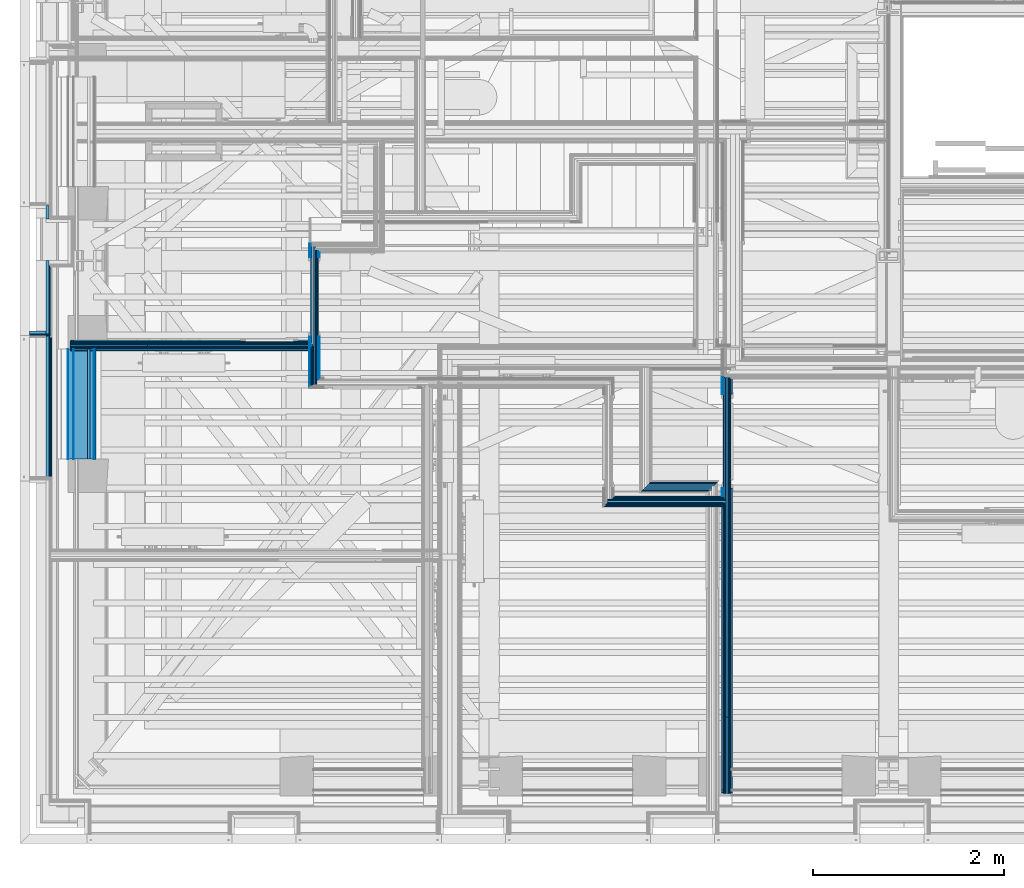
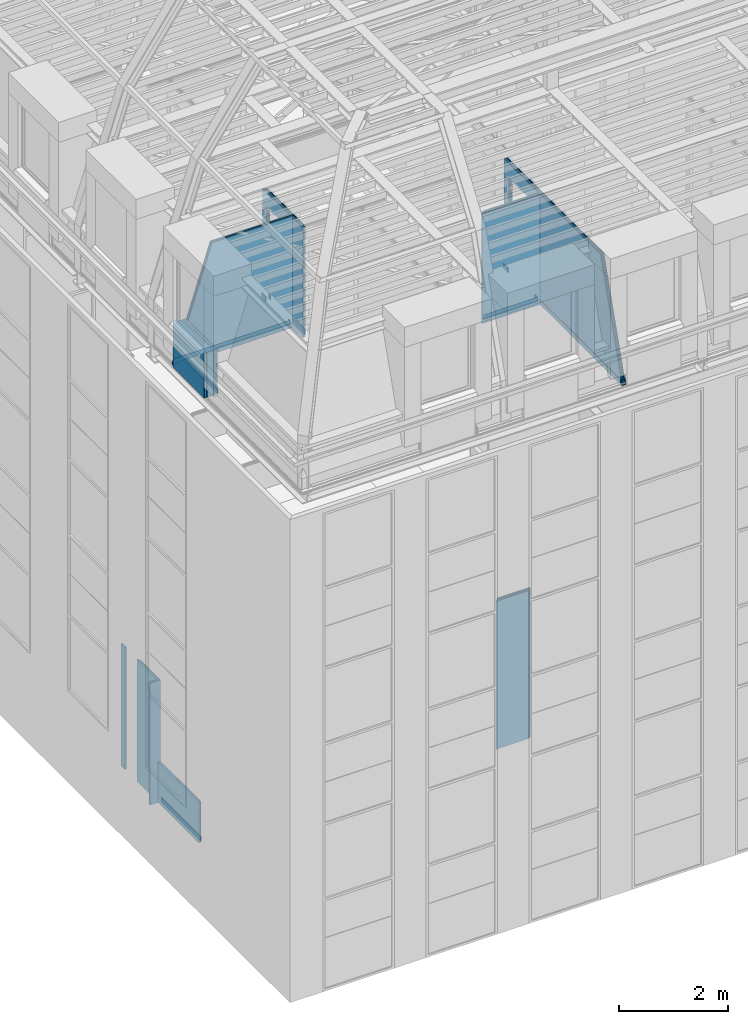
# One storey, part 29 of 183: 53 building element parts, 2 openings, 10 elements without a shape of their own.
"""IFC2X3 building model written with IfcOpenShell, lengths in metres."""

from ifc_helpers import new_model, entity, si_unit, converted_unit, derived_unit, money_unit, direction, frame, frame_2d, origin_with_axes, place, context, subcontext, project, spatial, polyline, rectangle, outline, extrude, clip, halfspace, material, type_object, element, aggregate, save


model = new_model("IFC2X3")

# Units and contexts
model_context = context("Model", 3, precision=1e-05, world=origin_with_axes(), true_north=direction((0.0, 1.0)))
body_context = subcontext(model_context, "Body", "Model", "MODEL_VIEW", scale=1.0)
ifc_project = project(units=[si_unit("LENGTHUNIT", "METRE"), si_unit("AREAUNIT", "SQUARE_METRE"), si_unit("VOLUMEUNIT", "CUBIC_METRE"), si_unit("ABSORBEDDOSEUNIT", "GRAY"), si_unit("AMOUNTOFSUBSTANCEUNIT", "MOLE"), si_unit("DOSEEQUIVALENTUNIT", "SIEVERT"), si_unit("ELECTRICCAPACITANCEUNIT", "FARAD"), si_unit("ELECTRICCHARGEUNIT", "COULOMB"), si_unit("ELECTRICCONDUCTANCEUNIT", "SIEMENS"), si_unit("ELECTRICCURRENTUNIT", "AMPERE"), si_unit("ELECTRICRESISTANCEUNIT", "OHM"), si_unit("ELECTRICVOLTAGEUNIT", "VOLT"), si_unit("ENERGYUNIT", "JOULE"), si_unit("FORCEUNIT", "NEWTON"), si_unit("FREQUENCYUNIT", "HERTZ"), si_unit("ILLUMINANCEUNIT", "LUX"), si_unit("INDUCTANCEUNIT", "HENRY"), si_unit("LUMINOUSFLUXUNIT", "LUMEN"), si_unit("LUMINOUSINTENSITYUNIT", "CANDELA"), si_unit("MAGNETICFLUXDENSITYUNIT", "TESLA"), si_unit("MAGNETICFLUXUNIT", "WEBER"), si_unit("MASSUNIT", "GRAM"), converted_unit("PLANEANGLEUNIT", "degree", entity("IfcReal", 0.0174532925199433), si_unit("PLANEANGLEUNIT", "RADIAN"), dimensions=[0, 0, 0, 0, 0, 0, 0]), si_unit("POWERUNIT", "WATT"), si_unit("PRESSUREUNIT", "PASCAL"), si_unit("RADIOACTIVITYUNIT", "BECQUEREL"), si_unit("SOLIDANGLEUNIT", "STERADIAN"), si_unit("THERMODYNAMICTEMPERATUREUNIT", "KELVIN"), si_unit("TIMEUNIT", "SECOND"), derived_unit("ACCELERATIONUNIT", [(si_unit("LENGTHUNIT", "METRE"), 1), (si_unit("TIMEUNIT", "SECOND"), -2)]), derived_unit("ANGULARVELOCITYUNIT", [(converted_unit("PLANEANGLEUNIT", "degree", entity("IfcReal", 0.0174532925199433), si_unit("PLANEANGLEUNIT", "RADIAN"), dimensions=[0, 0, 0, 0, 0, 0, 0]), 1), (si_unit("TIMEUNIT", "SECOND"), -1)]), derived_unit("CURVATUREUNIT", [(converted_unit("PLANEANGLEUNIT", "degree", entity("IfcReal", 0.0174532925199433), si_unit("PLANEANGLEUNIT", "RADIAN"), dimensions=[0, 0, 0, 0, 0, 0, 0]), 1), (si_unit("LENGTHUNIT", "METRE"), -1)]), derived_unit("DYNAMICVISCOSITYUNIT", [(si_unit("PRESSUREUNIT", "PASCAL"), 1), (si_unit("TIMEUNIT", "SECOND"), 1)]), derived_unit("HEATFLUXDENSITYUNIT", [(si_unit("POWERUNIT", "WATT"), 1), (si_unit("LENGTHUNIT", "METRE"), -2)]), derived_unit("HEATINGVALUEUNIT", [(si_unit("ENERGYUNIT", "JOULE"), 1), (si_unit("MASSUNIT", "GRAM"), -1)]), derived_unit("INTEGERCOUNTRATEUNIT", [(si_unit("TIMEUNIT", "SECOND"), -1)]), derived_unit("IONCONCENTRATIONUNIT", [(si_unit("MASSUNIT", "GRAM"), 1), (si_unit("VOLUMEUNIT", "CUBIC_METRE"), -1)]), derived_unit("ISOTHERMALMOISTURECAPACITYUNIT", [(si_unit("VOLUMEUNIT", "CUBIC_METRE"), 1), (si_unit("MASSUNIT", "GRAM"), -1)]), derived_unit("KINEMATICVISCOSITYUNIT", [(si_unit("AREAUNIT", "SQUARE_METRE"), 1), (si_unit("TIMEUNIT", "SECOND"), -1)]), derived_unit("LINEARFORCEUNIT", [(si_unit("FORCEUNIT", "NEWTON"), 1), (si_unit("LENGTHUNIT", "METRE"), -1)]), derived_unit("LINEARMOMENTUNIT", [(si_unit("FORCEUNIT", "NEWTON"), 1), (si_unit("LENGTHUNIT", "METRE"), -1)]), derived_unit("LINEARSTIFFNESSUNIT", [(si_unit("FORCEUNIT", "NEWTON"), 1), (si_unit("LENGTHUNIT", "METRE"), -1)]), derived_unit("LINEARVELOCITYUNIT", [(si_unit("LENGTHUNIT", "METRE"), 1), (si_unit("TIMEUNIT", "SECOND"), -1)]), derived_unit("LUMINOUSINTENSITYDISTRIBUTIONUNIT", [(si_unit("LUMINOUSINTENSITYUNIT", "CANDELA"), 1), (si_unit("LUMINOUSFLUXUNIT", "LUMEN"), -1)]), derived_unit("MASSDENSITYUNIT", [(si_unit("MASSUNIT", "GRAM"), 1), (si_unit("VOLUMEUNIT", "CUBIC_METRE"), -1)]), derived_unit("MASSFLOWRATEUNIT", [(si_unit("MASSUNIT", "GRAM"), 1), (si_unit("TIMEUNIT", "SECOND"), -1)]), derived_unit("MASSPERLENGTHUNIT", [(si_unit("MASSUNIT", "GRAM"), 1), (si_unit("LENGTHUNIT", "METRE"), -1)]), derived_unit("MODULUSOFELASTICITYUNIT", [(si_unit("FORCEUNIT", "NEWTON"), 1), (si_unit("AREAUNIT", "SQUARE_METRE"), -1)]), derived_unit("MODULUSOFLINEARSUBGRADEREACTIONUNIT", [(si_unit("FORCEUNIT", "NEWTON"), 1), (si_unit("LENGTHUNIT", "METRE"), -2)]), derived_unit("MODULUSOFROTATIONALSUBGRADEREACTIONUNIT", [(si_unit("FORCEUNIT", "NEWTON"), 1), (si_unit("LENGTHUNIT", "METRE"), 1)]), derived_unit("MODULUSOFSUBGRADEREACTIONUNIT", [(si_unit("FORCEUNIT", "NEWTON"), 1), (si_unit("VOLUMEUNIT", "CUBIC_METRE"), -1)]), derived_unit("MOISTUREDIFFUSIVITYUNIT", [(si_unit("VOLUMEUNIT", "CUBIC_METRE"), 1), (si_unit("TIMEUNIT", "SECOND"), -1)]), derived_unit("MOLECULARWEIGHTUNIT", [(si_unit("MASSUNIT", "GRAM"), 1), (si_unit("AMOUNTOFSUBSTANCEUNIT", "MOLE"), -1)]), derived_unit("PLANARFORCEUNIT", [(si_unit("FORCEUNIT", "NEWTON"), 1), (si_unit("LENGTHUNIT", "METRE"), -2)]), derived_unit("ROTATIONALFREQUENCYUNIT", [(si_unit("TIMEUNIT", "SECOND"), -1)]), derived_unit("ROTATIONALMASSUNIT", [(si_unit("MASSUNIT", "GRAM"), 1), (si_unit("LENGTHUNIT", "METRE"), 2)]), derived_unit("ROTATIONALSTIFFNESSUNIT", [(si_unit("FORCEUNIT", "NEWTON"), 1), (si_unit("LENGTHUNIT", "METRE"), 1), (converted_unit("PLANEANGLEUNIT", "degree", entity("IfcReal", 0.0174532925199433), si_unit("PLANEANGLEUNIT", "RADIAN"), dimensions=[0, 0, 0, 0, 0, 0, 0]), -1)]), derived_unit("SECTIONAREAINTEGRALUNIT", [(si_unit("LENGTHUNIT", "METRE"), 5)]), derived_unit("SECTIONMODULUSUNIT", [(si_unit("LENGTHUNIT", "METRE"), 3)]), derived_unit("SHEARMODULUSUNIT", [(si_unit("FORCEUNIT", "NEWTON"), 1), (si_unit("AREAUNIT", "SQUARE_METRE"), -1)]), derived_unit("SOUNDPOWERUNIT", [(si_unit("ENERGYUNIT", "JOULE"), 1), (si_unit("TIMEUNIT", "SECOND"), -1)]), derived_unit("SPECIFICHEATCAPACITYUNIT", [(si_unit("FORCEUNIT", "NEWTON"), 1), (si_unit("MASSUNIT", "GRAM"), -1), (si_unit("THERMODYNAMICTEMPERATUREUNIT", "KELVIN"), -1)]), derived_unit("TEMPERATUREGRADIENTUNIT", [(si_unit("THERMODYNAMICTEMPERATUREUNIT", "KELVIN"), 1), (si_unit("LENGTHUNIT", "METRE"), -1)]), derived_unit("THERMALADMITTANCEUNIT", [(si_unit("POWERUNIT", "WATT"), 1), (si_unit("AREAUNIT", "SQUARE_METRE"), -1), (si_unit("THERMODYNAMICTEMPERATUREUNIT", "KELVIN"), -1)]), derived_unit("THERMALCONDUCTANCEUNIT", [(si_unit("POWERUNIT", "WATT"), 1), (si_unit("LENGTHUNIT", "METRE"), -1), (si_unit("THERMODYNAMICTEMPERATUREUNIT", "KELVIN"), -1)]), derived_unit("THERMALEXPANSIONCOEFFICIENTUNIT", [(si_unit("THERMODYNAMICTEMPERATUREUNIT", "KELVIN"), -1)]), derived_unit("THERMALRESISTANCEUNIT", [(si_unit("AREAUNIT", "SQUARE_METRE"), 1), (si_unit("POWERUNIT", "WATT"), -1)]), derived_unit("THERMALTRANSMITTANCEUNIT", [(si_unit("POWERUNIT", "WATT"), 1), (si_unit("AREAUNIT", "SQUARE_METRE"), -1), (si_unit("THERMODYNAMICTEMPERATUREUNIT", "KELVIN"), -1)]), derived_unit("TORQUEUNIT", [(si_unit("FORCEUNIT", "NEWTON"), 1), (si_unit("LENGTHUNIT", "METRE"), 1)]), derived_unit("VAPORPERMEABILITYUNIT", [(si_unit("MASSUNIT", "GRAM"), 1), (si_unit("TIMEUNIT", "SECOND"), -1)]), derived_unit("VOLUMETRICFLOWRATEUNIT", [(si_unit("VOLUMEUNIT", "CUBIC_METRE"), 1), (si_unit("TIMEUNIT", "SECOND"), -1)]), derived_unit("WARPINGCONSTANTUNIT", [(si_unit("LENGTHUNIT", "METRE"), 6)]), derived_unit("WARPINGMOMENTUNIT", [(si_unit("FORCEUNIT", "NEWTON"), 1), (si_unit("LENGTHUNIT", "METRE"), 2)]), money_unit("GBP")], contexts=[model_context])

# Site, building, storey
site_placement = place(None, origin_with_axes())
site = spatial("IfcSite", under=ifc_project, at=site_placement, Name="Site", CompositionType="ELEMENT")
building_placement = place(site_placement, origin_with_axes())
building = spatial("IfcBuilding", under=site, at=building_placement, Name="Building01", CompositionType="ELEMENT")
storey_placement = place(building_placement, frame((0.0, 0.0, 5.15), z_axis=(0.0, 0.0, 1.0), x_axis=(1.0, 0.0, 0.0)))
storey = spatial("IfcBuildingStorey", under=building, at=storey_placement, Name="1F", CompositionType="ELEMENT", Elevation=5.15)

# Wall, building element parts
wall_type_1 = type_object("IfcWallType", Name="SHE_A-Walls_Type05a_Partition_95mm_tall", PredefinedType="NOTDEFINED")
wall_1_placement = place(storey_placement, frame((7.235, 3.72, 0.0), z_axis=(0.0, 0.0, 1.0), x_axis=(-1.0, 0.0, 0.0)))
wall_1 = element("IfcWall", 1, at=wall_1_placement, inside=storey, type_object=wall_type_1, Name="5A", ObjectType="SHE_A-Walls_Type05a_Partition_95mm_tall")
ifc_material_1 = material(Name="A_BSUK_WallInternal_Finishes_Plasterboard")
placement_1 = place(wall_1_placement, origin_with_axes())
building_element_part_1 = element("IfcBuildingElementPart", 2, at=placement_1, material=ifc_material_1, Name="2", context=body_context, shape_type="SweptSolid", body=[
    extrude(outline(polyline([(0.652, -0.048), (-0.048, -0.048), (-0.06, -0.06), (0.64, -0.06), (0.652, -0.048)])), origin_with_axes(), (0.0, 0.0, 1.0), 3.32),
])
ifc_material_2 = material(Name="Air Cavity")
building_element_part_2 = element("IfcBuildingElementPart", 3, at=placement_1, material=ifc_material_2, Name="3", context=body_context, shape_type="SweptSolid", body=[
    extrude(outline(polyline([(0.675, -0.025), (-0.025, -0.025), (-0.048, -0.048), (0.652, -0.048), (0.675, -0.025)])), origin_with_axes(), (0.0, 0.0, 1.0), 3.32),
])
ifc_material_3 = material(Name="A_BSUK_Insulation")
building_element_part_3 = element("IfcBuildingElementPart", 4, at=placement_1, material=ifc_material_3, Name="4", context=body_context, shape_type="SweptSolid", body=[
    extrude(outline(polyline([(0.7, 0.0), (0.0, 0.0), (0.0, -0.025), (0.675, -0.025), (0.7, 0.0)])), origin_with_axes(), (0.0, 0.0, 1.0), 3.32),
])
building_element_part_4 = element("IfcBuildingElementPart", 5, at=placement_1, material=ifc_material_2, Name="5", context=body_context, shape_type="SweptSolid", body=[
    extrude(outline(polyline([(0.723, 0.023), (0.0, 0.023), (0.0, 0.0), (0.7, 0.0), (0.723, 0.023)])), origin_with_axes(), (0.0, 0.0, 1.0), 3.32),
])
building_element_part_5 = element("IfcBuildingElementPart", 6, at=placement_1, material=ifc_material_1, Name="6", context=body_context, shape_type="SweptSolid", body=[
    extrude(outline(polyline([(0.735, 0.035), (0.035, 0.035), (0.023, 0.023), (0.723, 0.023), (0.735, 0.035)])), origin_with_axes(), (0.0, 0.0, 1.0), 3.32),
])
aggregate(wall_1, [building_element_part_1, building_element_part_2, building_element_part_3, building_element_part_4, building_element_part_5])

# Wall, building element part
wall_type_2 = type_object("IfcWallType", Name="SHE_A-Walls_Type06d_ExternalWallInsulation_48mm", PredefinedType="NOTDEFINED")
wall_2_placement = place(storey_placement, frame((0.27, 6.68018, 0.0), z_axis=(0.0, 0.0, 1.0), x_axis=(0.0, -1.0, 0.0)))
wall_2 = element("IfcWall", 7, at=wall_2_placement, inside=storey, type_object=wall_type_2, Name="6D", ObjectType="SHE_A-Walls_Type06d_ExternalWallInsulation_48mm")
building_element_part_6_placement = place(wall_2_placement, origin_with_axes())
building_element_part_6 = element("IfcBuildingElementPart", 8, at=building_element_part_6_placement, material=ifc_material_3, Name="1", context=body_context, shape_type="SweptSolid", body=[
    extrude(rectangle(XDim=0.14418, YDim=0.036, at=frame_2d((0.07209, 0.018), x_axis=(-1.0, 0.0))), origin_with_axes(), (0.0, 0.0, 1.0), 2.74),
])
aggregate(wall_2, [building_element_part_6])

# Wall, building element parts
wall_3_placement = place(storey_placement, frame((0.27, 6.1, 0.0), z_axis=(0.0, 0.0, 1.0), x_axis=(0.0, -1.0, 0.0)))
wall_3 = element("IfcWall", 9, at=wall_3_placement, inside=storey, type_object=wall_type_2, Name="6D", ObjectType="SHE_A-Walls_Type06d_ExternalWallInsulation_48mm")
placement_2 = place(wall_3_placement, origin_with_axes())
building_element_part_7 = element("IfcBuildingElementPart", 10, at=placement_2, material=ifc_material_3, Name="1", context=body_context, shape_type="SweptSolid", body=[
    extrude(rectangle(XDim=0.773, YDim=0.036, at=frame_2d((0.3865, 0.018), x_axis=(-1.0, 0.0))), origin_with_axes(), (0.0, 0.0, 1.0), 2.74),
])
building_element_part_8 = element("IfcBuildingElementPart", 11, at=placement_2, material=ifc_material_1, Name="2", context=body_context, shape_type="SweptSolid", body=[
    extrude(outline(polyline([(0.785, 0.048), (0.048, 0.048), (0.048, 0.035), (0.772, 0.035), (0.785, 0.048)])), origin_with_axes(), (0.0, 0.0, 1.0), 2.74),
])
aggregate(wall_3, [building_element_part_7, building_element_part_8])

wall_4_placement = place(storey_placement, frame((0.27, 5.363, 0.0), z_axis=(0.0, 0.0, 1.0), x_axis=(-1.0, 0.0, 0.0)))
wall_4 = element("IfcWall", 12, at=wall_4_placement, inside=storey, type_object=wall_type_2, Name="6D", ObjectType="SHE_A-Walls_Type06d_ExternalWallInsulation_48mm")
placement_3 = place(wall_4_placement, origin_with_axes())
building_element_part_9 = element("IfcBuildingElementPart", 13, at=placement_3, material=ifc_material_3, Name="1", context=body_context, shape_type="SweptSolid", body=[
    extrude(rectangle(XDim=0.036, YDim=0.17, at=frame_2d((0.085, 0.018), x_axis=(0.0, -1.0))), origin_with_axes(), (0.0, 0.0, 1.0), 2.74),
])
building_element_part_10 = element("IfcBuildingElementPart", 14, at=placement_3, material=ifc_material_1, Name="2", context=body_context, shape_type="SweptSolid", body=[
    extrude(outline(polyline([(-0.048, 0.048), (-0.035, 0.035), (0.17, 0.035), (0.17, 0.048), (-0.048, 0.048)])), origin_with_axes(), (0.0, 0.0, 1.0), 2.74),
])
aggregate(wall_4, [building_element_part_9, building_element_part_10])

wall_5_placement = place(storey_placement, frame((0.306, 5.315, 0.0), z_axis=(0.0, 0.0, 1.0), x_axis=(0.0, -1.0, 0.0)))
wall_5 = element("IfcWall", 15, at=wall_5_placement, inside=storey, type_object=wall_type_2, Name="6D", ObjectType="SHE_A-Walls_Type06d_ExternalWallInsulation_48mm")
placement_4 = place(wall_5_placement, origin_with_axes())
building_element_part_11 = element("IfcBuildingElementPart", 16, at=placement_4, material=ifc_material_3, Name="1", context=body_context, shape_type="SweptSolid", body=[
    extrude(rectangle(XDim=1.49282, YDim=0.036, at=frame_2d((0.74641, -0.018), x_axis=(-1.0, 0.0))), origin_with_axes(), (0.0, 0.0, 1.0), 0.915),
])
building_element_part_12 = element("IfcBuildingElementPart", 17, at=placement_4, material=ifc_material_1, Name="2", context=body_context, shape_type="SweptSolid", body=[
    extrude(rectangle(XDim=1.49282, YDim=0.013, at=frame_2d((0.74641, 0.0055), x_axis=(-1.0, 0.0))), origin_with_axes(), (0.0, 0.0, 1.0), 0.915),
])
ifc_material_4 = material(Name="A_BSUK_Walls_Timber")
building_element_part_13 = element("IfcBuildingElementPart", 18, at=placement_4, material=ifc_material_4, Name="3", context=body_context, shape_type="SweptSolid", body=[
    extrude(rectangle(XDim=1.46282, YDim=0.015, at=frame_2d((0.74641, 0.0195), x_axis=(-1.0, 0.0))), frame((0.0, 0.0, 0.015), z_axis=(0.0, 0.0, 1.0), x_axis=(1.0, 0.0, 0.0)), (0.0, 0.0, 1.0), 0.1),
])
aggregate(wall_5, [building_element_part_11, building_element_part_12, building_element_part_13])

# Wall, opening, building element parts
wall_type_3 = type_object("IfcWallType", Name="SHE_A-Walls_Type05b_Partition_80mm", PredefinedType="NOTDEFINED")
wall_6_placement = place(storey_placement, frame((3.066976, 6.252939, 9.78), z_axis=(0.0, 0.0, 1.0), x_axis=(0.0, -1.0, 0.0)))
wall_6 = element("IfcWall", 19, at=wall_6_placement, inside=storey, type_object=wall_type_3, Name="5B", ObjectType="SHE_A-Walls_Type05b_Partition_80mm")
opening_1_placement = place(wall_6_placement, frame((0.115964, 0.068, 0.0), z_axis=(0.0, 0.0, 1.0), x_axis=(1.0, 0.0, 0.0)))
element("IfcOpeningElement", 20, at=opening_1_placement, cuts=wall_6, Name="Opening", ObjectType="Opening", context=body_context, shape_type="SweptSolid", body=[
    extrude(rectangle(XDim=0.834, YDim=2.142, at=frame_2d((0.417, 1.071), x_axis=(-1.0, 0.0))), frame((0.0, 0.0, 0.0), z_axis=(0.0, -1.0, 0.0), x_axis=(1.0, 0.0, 0.0)), (0.0, 0.0, 1.0), 0.11),
])
placement_5 = place(wall_6_placement, origin_with_axes())
building_element_part_14 = element("IfcBuildingElementPart", 21, at=placement_5, material=ifc_material_4, Name="1", context=body_context, shape_type="SweptSolid", body=[
    extrude(rectangle(XDim=1.024964, YDim=0.015, at=frame_2d((0.485482, -0.0345), x_axis=(-1.0, 0.0))), frame((0.0, 0.0, 0.015), z_axis=(0.0, 0.0, 1.0), x_axis=(1.0, 0.0, 0.0)), (0.0, 0.0, 1.0), 0.1),
])
building_element_part_15 = element("IfcBuildingElementPart", 22, at=placement_5, material=ifc_material_4, Name="2", context=body_context, shape_type="SweptSolid", body=[
    extrude(outline(polyline([(1.473, -0.027), (-0.027, -0.027), (-0.027, -0.042), (1.488, -0.042), (1.473, -0.027)])), frame((0.0, 0.0, 0.015), z_axis=(0.0, 0.0, 1.0), x_axis=(1.0, 0.0, 0.0)), (0.0, 0.0, 1.0), 0.1),
])
building_element_part_16 = element("IfcBuildingElementPart", 23, at=placement_5, material=ifc_material_1, Name="3", context=body_context, shape_type="SweptSolid", body=[
    extrude(rectangle(XDim=1.039964, YDim=0.015, at=frame_2d((0.492982, -0.0195), x_axis=(-1.0, 0.0))), origin_with_axes(), (0.0, 0.0, 1.0), 2.468),
])
building_element_part_17 = element("IfcBuildingElementPart", 24, at=placement_5, material=ifc_material_1, Name="4", context=body_context, shape_type="SweptSolid", body=[
    extrude(outline(polyline([(1.458, -0.012), (1.062964, -0.012), (1.062964, -0.027), (1.473, -0.027), (1.458, -0.012)])), origin_with_axes(), (0.0, 0.0, 1.0), 2.468),
])
building_element_part_18 = element("IfcBuildingElementPart", 25, at=placement_5, material=ifc_material_2, Name="5", context=body_context, shape_type="SweptSolid", body=[
    extrude(outline(polyline([(1.446, 0.0), (1.062964, 0.0), (1.062964, -0.012), (1.458, -0.012), (1.446, 0.0)])), origin_with_axes(), (0.0, 0.0, 1.0), 2.468),
])
building_element_part_19 = element("IfcBuildingElementPart", 26, at=placement_5, material=ifc_material_3, Name="6", context=body_context, shape_type="SweptSolid", body=[
    extrude(rectangle(XDim=1.446, YDim=0.025, at=frame_2d((0.723, 0.0125), x_axis=(-1.0, 0.0))), origin_with_axes(), (0.0, 0.0, 1.0), 2.468),
])
building_element_part_20 = element("IfcBuildingElementPart", 27, at=placement_5, material=ifc_material_2, Name="7", context=body_context, shape_type="SweptSolid", body=[
    extrude(rectangle(XDim=1.446, YDim=0.013, at=frame_2d((0.723, 0.0315), x_axis=(-1.0, 0.0))), origin_with_axes(), (0.0, 0.0, 1.0), 2.468),
])
building_element_part_21 = element("IfcBuildingElementPart", 28, at=placement_5, material=ifc_material_1, Name="8", context=body_context, shape_type="SweptSolid", body=[
    extrude(outline(polyline([(1.393, 0.053), (0.038, 0.053), (0.038, 0.038), (1.408, 0.038), (1.393, 0.053)])), origin_with_axes(), (0.0, 0.0, 1.0), 2.468),
])
building_element_part_22 = element("IfcBuildingElementPart", 29, at=placement_5, material=ifc_material_4, Name="9", context=body_context, shape_type="SweptSolid", body=[
    extrude(outline(polyline([(1.378, 0.068), (0.068, 0.068), (0.053, 0.053), (1.393, 0.053), (1.378, 0.068)])), frame((0.0, 0.0, 0.015), z_axis=(0.0, 0.0, 1.0), x_axis=(1.0, 0.0, 0.0)), (0.0, 0.0, 1.0), 0.1),
])
aggregate(wall_6, [building_element_part_14, building_element_part_15, building_element_part_16, building_element_part_17, building_element_part_18, building_element_part_19, building_element_part_20, building_element_part_21, building_element_part_22])

# Wall, building element parts
wall_type_4 = type_object("IfcWallType", Name="SHE_A-Walls_Type06e_ExternalWallPenthouse_280mm", PredefinedType="NOTDEFINED")
wall_7_placement = place(storey_placement, frame((0.564939, 5.174915, 9.78), z_axis=(0.0, 0.0, 1.0), x_axis=(0.0, 1.0, 0.0)))
wall_7 = element("IfcWall", 30, at=wall_7_placement, inside=storey, type_object=wall_type_4, Name="6E", ObjectType="SHE_A-Walls_Type06e_ExternalWallPenthouse_280mm")
placement_6 = place(wall_7_placement, origin_with_axes())
building_element_part_23 = element("IfcBuildingElementPart", 31, at=placement_6, material=ifc_material_4, Name="1", context=body_context, shape_type="SweptSolid", body=[
    extrude(rectangle(XDim=1.149951, YDim=0.015, at=frame_2d((-0.574976, -0.2225), x_axis=(1.0, 0.0))), frame((0.0, 0.0, 0.015), z_axis=(0.0, 0.0, 1.0), x_axis=(1.0, 0.0, 0.0)), (0.0, 0.0, 1.0), 0.1),
])
building_element_part_24 = element("IfcBuildingElementPart", 32, at=placement_6, material=ifc_material_1, Name="2", context=body_context, shape_type="SweptSolid", body=[
    extrude(rectangle(XDim=1.149951, YDim=0.01, at=frame_2d((-0.574976, -0.21), x_axis=(1.0, 0.0))), origin_with_axes(), (0.0, 0.0, 1.0), 1.0),
])
building_element_part_25 = element("IfcBuildingElementPart", 33, at=placement_6, material=ifc_material_3, Name="3", context=body_context, shape_type="SweptSolid", body=[
    extrude(rectangle(XDim=1.149951, YDim=0.04, at=frame_2d((-0.574976, -0.185), x_axis=(1.0, 0.0))), origin_with_axes(), (0.0, 0.0, 1.0), 1.0),
])
building_element_part_26 = element("IfcBuildingElementPart", 34, at=placement_6, material=ifc_material_2, Name="4", context=body_context, shape_type="SweptSolid", body=[
    extrude(rectangle(XDim=1.149951, YDim=0.025, at=frame_2d((-0.574976, -0.1525), x_axis=(1.0, 0.0))), origin_with_axes(), (0.0, 0.0, 1.0), 1.0),
])
building_element_part_27 = element("IfcBuildingElementPart", 35, at=placement_6, material=ifc_material_3, Name="5", context=body_context, shape_type="SweptSolid", body=[
    extrude(rectangle(XDim=1.149951, YDim=0.14, at=frame_2d((-0.574976, -0.07), x_axis=(1.0, 0.0))), origin_with_axes(), (0.0, 0.0, 1.0), 1.0),
])
building_element_part_28 = element("IfcBuildingElementPart", 36, at=placement_6, material=ifc_material_4, Name="6", context=body_context, shape_type="SweptSolid", body=[
    extrude(rectangle(XDim=1.149951, YDim=0.01, at=frame_2d((-0.574976, 0.005), x_axis=(1.0, 0.0))), origin_with_axes(), (0.0, 0.0, 1.0), 1.0),
])
building_element_part_29 = element("IfcBuildingElementPart", 37, at=placement_6, material=ifc_material_2, Name="7", context=body_context, shape_type="SweptSolid", body=[
    extrude(rectangle(XDim=1.149951, YDim=0.05, at=frame_2d((-0.574976, 0.035), x_axis=(1.0, 0.0))), origin_with_axes(), (0.0, 0.0, 1.0), 1.0),
])
ifc_material_5 = material(Name="A_BSUK_WallInternal_Finishes_Metal")
building_element_part_30 = element("IfcBuildingElementPart", 38, at=placement_6, material=ifc_material_5, Name="8", context=body_context, shape_type="SweptSolid", body=[
    extrude(rectangle(XDim=1.149951, YDim=0.005, at=frame_2d((-0.574976, 0.0625), x_axis=(1.0, 0.0))), origin_with_axes(), (0.0, 0.0, 1.0), 1.0),
])
aggregate(wall_7, [building_element_part_23, building_element_part_24, building_element_part_25, building_element_part_26, building_element_part_27, building_element_part_28, building_element_part_29, building_element_part_30])

# Wall, opening, building element parts
wall_8_placement = place(storey_placement, frame((7.387, 4.88, 9.78), z_axis=(0.0, 0.0, 1.0), x_axis=(0.0, -1.0, 0.0)))
wall_8 = element("IfcWall", 39, at=wall_8_placement, inside=storey, type_object=wall_type_3, Name="5B", ObjectType="SHE_A-Walls_Type05b_Partition_80mm")
opening_2_placement = place(wall_8_placement, frame((0.178061, -0.042, 0.0), z_axis=(0.0, 0.0, 1.0), x_axis=(1.0, 0.0, 0.0)))
element("IfcOpeningElement", 40, at=opening_2_placement, cuts=wall_8, Name="Opening", ObjectType="Opening", context=body_context, shape_type="SweptSolid", body=[
    extrude(rectangle(XDim=0.984, YDim=2.142, at=frame_2d((-0.492, 1.071), x_axis=(-1.0, 0.0))), frame((0.0, 0.0, 0.0), z_axis=(0.0, 1.0, 0.0), x_axis=(-1.0, 0.0, 0.0)), (0.0, 0.0, 1.0), 0.11),
])
placement_7 = place(wall_8_placement, origin_with_axes())
building_element_part_31 = element("IfcBuildingElementPart", 41, at=placement_7, material=ifc_material_4, Name="1", context=body_context, shape_type="SweptSolid", body=[
    extrude(rectangle(XDim=1.245061, YDim=0.015, at=frame_2d((0.62253, -0.0345), x_axis=(-1.0, 0.0))), frame((0.0, 0.0, 0.015), z_axis=(0.0, 0.0, 1.0), x_axis=(1.0, 0.0, 0.0)), (0.0, 0.0, 1.0), 0.1),
])
building_element_part_32 = element("IfcBuildingElementPart", 42, at=placement_7, material=ifc_material_4, Name="2", context=body_context, shape_type="Clipping", body=[
    clip(extrude(rectangle(XDim=4.35127, YDim=0.015, at=frame_2d((2.175635, -0.0345), x_axis=(-1.0, 0.0))), frame((0.0, 0.0, 0.015), z_axis=(0.0, 0.0, 1.0), x_axis=(1.0, 0.0, 0.0)), (0.0, 0.0, 1.0), 0.1), halfspace(frame((3.940169, 0.0, 1.280238), z_axis=(-0.95105652, 0.0, -0.30901699), x_axis=(0.0, -1.0, 0.0)), True)),
])
building_element_part_33 = element("IfcBuildingElementPart", 43, at=placement_7, material=ifc_material_1, Name="3", context=body_context, shape_type="SweptSolid", body=[
    extrude(rectangle(XDim=1.275061, YDim=0.015, at=frame_2d((0.63753, -0.0195), x_axis=(-1.0, 0.0))), origin_with_axes(), (0.0, 0.0, 1.0), 2.468),
])
building_element_part_34 = element("IfcBuildingElementPart", 44, at=placement_7, material=ifc_material_1, Name="4", context=body_context, shape_type="Clipping", body=[
    clip(extrude(rectangle(XDim=4.356143, YDim=0.015, at=frame_2d((2.178072, -0.0195), x_axis=(-1.0, 0.0))), origin_with_axes(), (0.0, 0.0, 1.0), 2.468), halfspace(frame((3.940169, 0.0, 1.280238), z_axis=(-0.95105652, 0.0, -0.30901699), x_axis=(0.0, -1.0, 0.0)), True)),
])
building_element_part_35 = element("IfcBuildingElementPart", 45, at=placement_7, material=ifc_material_2, Name="5", context=body_context, shape_type="Clipping", body=[
    clip(extrude(rectangle(XDim=4.356143, YDim=0.012, at=frame_2d((2.178072, -0.006), x_axis=(-1.0, 0.0))), origin_with_axes(), (0.0, 0.0, 1.0), 2.468), halfspace(frame((3.940169, 0.0, 1.280238), z_axis=(-0.95105652, 0.0, -0.30901699), x_axis=(0.0, -1.0, 0.0)), True)),
])
building_element_part_36 = element("IfcBuildingElementPart", 46, at=placement_7, material=ifc_material_3, Name="6", context=body_context, shape_type="Clipping", body=[
    clip(extrude(rectangle(XDim=4.356143, YDim=0.025, at=frame_2d((2.178072, 0.0125), x_axis=(-1.0, 0.0))), origin_with_axes(), (0.0, 0.0, 1.0), 2.468), halfspace(frame((3.940169, 0.0, 1.280238), z_axis=(-0.95105652, 0.0, -0.30901699), x_axis=(0.0, -1.0, 0.0)), True)),
])
building_element_part_37 = element("IfcBuildingElementPart", 47, at=placement_7, material=ifc_material_2, Name="7", context=body_context, shape_type="Clipping", body=[
    clip(extrude(rectangle(XDim=4.356143, YDim=0.013, at=frame_2d((2.178072, 0.0315), x_axis=(-1.0, 0.0))), origin_with_axes(), (0.0, 0.0, 1.0), 2.468), halfspace(frame((3.940169, 0.0, 1.280238), z_axis=(-0.95105652, 0.0, -0.30901699), x_axis=(0.0, -1.0, 0.0)), True)),
])
building_element_part_38 = element("IfcBuildingElementPart", 48, at=placement_7, material=ifc_material_1, Name="8", context=body_context, shape_type="Clipping", body=[
    clip(extrude(rectangle(XDim=4.356143, YDim=0.015, at=frame_2d((2.178072, 0.0455), x_axis=(-1.0, 0.0))), origin_with_axes(), (0.0, 0.0, 1.0), 2.468), halfspace(frame((3.940169, 0.0, 1.280238), z_axis=(-0.95105652, 0.0, -0.30901699), x_axis=(0.0, -1.0, 0.0)), True)),
])
building_element_part_39 = element("IfcBuildingElementPart", 49, at=placement_7, material=ifc_material_4, Name="9", context=body_context, shape_type="Clipping", body=[
    clip(extrude(rectangle(XDim=4.33627, YDim=0.015, at=frame_2d((2.183135, 0.0605), x_axis=(-1.0, 0.0))), frame((0.0, 0.0, 0.015), z_axis=(0.0, 0.0, 1.0), x_axis=(1.0, 0.0, 0.0)), (0.0, 0.0, 1.0), 0.1), halfspace(frame((3.940169, 0.0, 1.280238), z_axis=(-0.95105652, 0.0, -0.30901699), x_axis=(0.0, -1.0, 0.0)), True)),
])
aggregate(wall_8, [building_element_part_31, building_element_part_32, building_element_part_33, building_element_part_34, building_element_part_35, building_element_part_36, building_element_part_37, building_element_part_38, building_element_part_39])

# Wall, building element parts
wall_9_placement = place(storey_placement, frame((3.066976, 5.227976, 9.78), z_axis=(0.0, 0.0, 1.0), x_axis=(-1.0, 0.0, 0.0)))
wall_9 = element("IfcWall", 50, at=wall_9_placement, inside=storey, type_object=wall_type_3, Name="5B", ObjectType="SHE_A-Walls_Type05b_Partition_80mm")
placement_8 = place(wall_9_placement, origin_with_axes())
building_element_part_40 = element("IfcBuildingElementPart", 51, at=placement_8, material=ifc_material_4, Name="1", context=body_context, shape_type="Clipping", body=[
    clip(extrude(rectangle(XDim=2.496245, YDim=0.015, at=frame_2d((1.290123, -0.0345), x_axis=(-1.0, 0.0))), frame((0.0, 0.0, 0.015), z_axis=(0.0, 0.0, 1.0), x_axis=(1.0, 0.0, 0.0)), (0.0, 0.0, 1.0), 0.1), halfspace(frame((2.300273, 0.0, 0.747404), z_axis=(-0.95105652, 0.0, -0.30901699), x_axis=(0.0, -1.0, 0.0)), True)),
])
building_element_part_41 = element("IfcBuildingElementPart", 52, at=placement_8, material=ifc_material_1, Name="2", context=body_context, shape_type="Clipping", body=[
    clip(extrude(rectangle(XDim=2.516119, YDim=0.015, at=frame_2d((1.285059, -0.0195), x_axis=(-1.0, 0.0))), origin_with_axes(), (0.0, 0.0, 1.0), 2.5), halfspace(frame((2.300273, 0.0, 0.747404), z_axis=(-0.95105652, 0.0, -0.30901699), x_axis=(0.0, -1.0, 0.0)), True)),
])
building_element_part_42 = element("IfcBuildingElementPart", 53, at=placement_8, material=ifc_material_2, Name="3", context=body_context, shape_type="Clipping", body=[
    clip(extrude(rectangle(XDim=2.516119, YDim=0.012, at=frame_2d((1.285059, -0.006), x_axis=(-1.0, 0.0))), origin_with_axes(), (0.0, 0.0, 1.0), 2.5), halfspace(frame((2.300273, 0.0, 0.747404), z_axis=(-0.95105652, 0.0, -0.30901699), x_axis=(0.0, -1.0, 0.0)), True)),
])
building_element_part_43 = element("IfcBuildingElementPart", 54, at=placement_8, material=ifc_material_3, Name="4", context=body_context, shape_type="Clipping", body=[
    clip(extrude(rectangle(XDim=2.543119, YDim=0.025, at=frame_2d((1.271559, 0.0125), x_axis=(-1.0, 0.0))), origin_with_axes(), (0.0, 0.0, 1.0), 2.5), halfspace(frame((2.300273, 0.0, 0.747404), z_axis=(-0.95105652, 0.0, -0.30901699), x_axis=(0.0, -1.0, 0.0)), True)),
])
building_element_part_44 = element("IfcBuildingElementPart", 55, at=placement_8, material=ifc_material_2, Name="5", context=body_context, shape_type="Clipping", body=[
    clip(extrude(rectangle(XDim=2.543119, YDim=0.013, at=frame_2d((1.271559, 0.0315), x_axis=(-1.0, 0.0))), origin_with_axes(), (0.0, 0.0, 1.0), 2.5), halfspace(frame((2.300273, 0.0, 0.747404), z_axis=(-0.95105652, 0.0, -0.30901699), x_axis=(0.0, -1.0, 0.0)), True)),
])
building_element_part_45 = element("IfcBuildingElementPart", 56, at=placement_8, material=ifc_material_1, Name="6", context=body_context, shape_type="Clipping", body=[
    clip(extrude(rectangle(XDim=2.516119, YDim=0.015, at=frame_2d((1.285059, 0.0455), x_axis=(-1.0, 0.0))), origin_with_axes(), (0.0, 0.0, 1.0), 2.5), halfspace(frame((2.300273, 0.0, 0.747404), z_axis=(-0.95105652, 0.0, -0.30901699), x_axis=(0.0, -1.0, 0.0)), True)),
])
building_element_part_46 = element("IfcBuildingElementPart", 57, at=placement_8, material=ifc_material_4, Name="7", context=body_context, shape_type="Clipping", body=[
    clip(extrude(rectangle(XDim=2.496245, YDim=0.015, at=frame_2d((1.290123, 0.0605), x_axis=(-1.0, 0.0))), frame((0.0, 0.0, 0.015), z_axis=(0.0, 0.0, 1.0), x_axis=(1.0, 0.0, 0.0)), (0.0, 0.0, 1.0), 0.1), halfspace(frame((2.300273, 0.0, 0.747404), z_axis=(-0.95105652, 0.0, -0.30901699), x_axis=(0.0, -1.0, 0.0)), True)),
])
aggregate(wall_9, [building_element_part_40, building_element_part_41, building_element_part_42, building_element_part_43, building_element_part_44, building_element_part_45, building_element_part_46])

wall_10_placement = place(storey_placement, frame((6.147098, 3.566939, 9.78), z_axis=(0.0, 0.0, 1.0), x_axis=(1.0, 0.0, 0.0)))
wall_10 = element("IfcWall", 58, at=wall_10_placement, inside=storey, type_object=wall_type_3, Name="5B", ObjectType="SHE_A-Walls_Type05b_Partition_80mm")
placement_9 = place(wall_10_placement, origin_with_axes())
building_element_part_47 = element("IfcBuildingElementPart", 59, at=placement_9, material=ifc_material_4, Name="1", context=body_context, shape_type="SweptSolid", body=[
    extrude(outline(polyline([(1.212902, -0.027), (-0.027, -0.027), (-0.042, -0.042), (1.212902, -0.042), (1.212902, -0.027)])), frame((0.0, 0.0, 0.015), z_axis=(0.0, 0.0, 1.0), x_axis=(1.0, 0.0, 0.0)), (0.0, 0.0, 1.0), 0.1),
])
building_element_part_48 = element("IfcBuildingElementPart", 60, at=placement_9, material=ifc_material_1, Name="2", context=body_context, shape_type="SweptSolid", body=[
    extrude(outline(polyline([(1.212902, -0.012), (-0.012, -0.012), (-0.027, -0.027), (1.212902, -0.027), (1.212902, -0.012)])), origin_with_axes(), (0.0, 0.0, 1.0), 2.468),
])
building_element_part_49 = element("IfcBuildingElementPart", 61, at=placement_9, material=ifc_material_2, Name="3", context=body_context, shape_type="SweptSolid", body=[
    extrude(outline(polyline([(1.212902, 0.0), (0.0, 0.0), (-0.012, -0.012), (1.212902, -0.012), (1.212902, 0.0)])), origin_with_axes(), (0.0, 0.0, 1.0), 2.468),
])
building_element_part_50 = element("IfcBuildingElementPart", 62, at=placement_9, material=ifc_material_3, Name="4", context=body_context, shape_type="SweptSolid", body=[
    extrude(rectangle(XDim=1.239902, YDim=0.025, at=frame_2d((0.619951, 0.0125), x_axis=(-1.0, 0.0))), origin_with_axes(), (0.0, 0.0, 1.0), 2.468),
])
building_element_part_51 = element("IfcBuildingElementPart", 63, at=placement_9, material=ifc_material_2, Name="5", context=body_context, shape_type="SweptSolid", body=[
    extrude(rectangle(XDim=1.239902, YDim=0.013, at=frame_2d((0.619951, 0.0315), x_axis=(-1.0, 0.0))), origin_with_axes(), (0.0, 0.0, 1.0), 2.468),
])
building_element_part_52 = element("IfcBuildingElementPart", 64, at=placement_9, material=ifc_material_1, Name="6", context=body_context, shape_type="SweptSolid", body=[
    extrude(outline(polyline([(1.212902, 0.053), (0.053, 0.053), (0.038, 0.038), (1.212902, 0.038), (1.212902, 0.053)])), origin_with_axes(), (0.0, 0.0, 1.0), 2.468),
])
building_element_part_53 = element("IfcBuildingElementPart", 65, at=placement_9, material=ifc_material_4, Name="7", context=body_context, shape_type="SweptSolid", body=[
    extrude(outline(polyline([(1.212902, 0.068), (0.068, 0.068), (0.053, 0.053), (1.212902, 0.053), (1.212902, 0.068)])), frame((0.0, 0.0, 0.015), z_axis=(0.0, 0.0, 1.0), x_axis=(1.0, 0.0, 0.0)), (0.0, 0.0, 1.0), 0.1),
])
aggregate(wall_10, [building_element_part_47, building_element_part_48, building_element_part_49, building_element_part_50, building_element_part_51, building_element_part_52, building_element_part_53])

save(model, "model.ifc")
